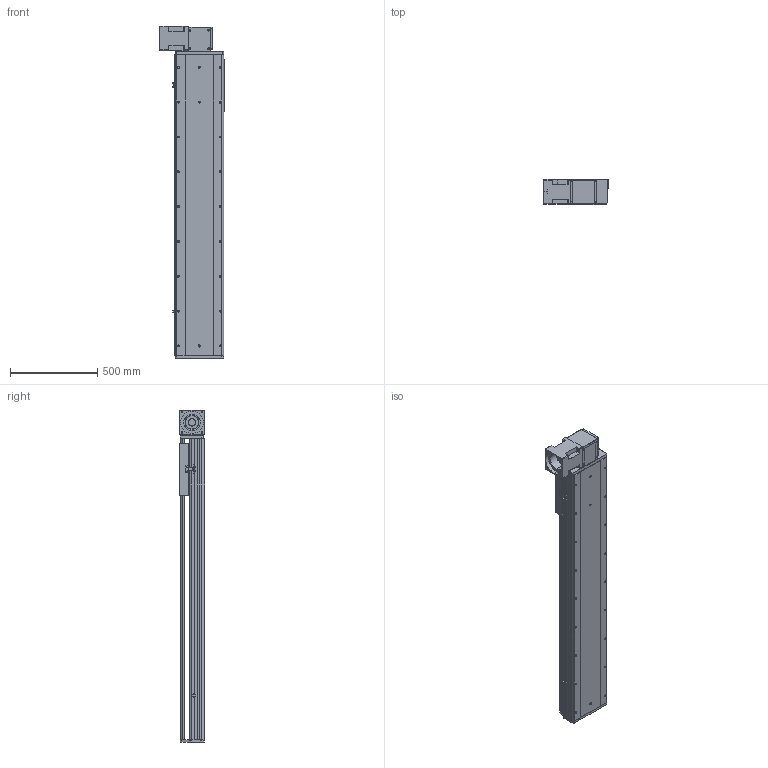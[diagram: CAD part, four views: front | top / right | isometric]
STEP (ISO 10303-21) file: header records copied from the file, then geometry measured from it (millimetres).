
FILE_DESCRIPTION (( 'STEP AP214' ), '1' );
FILE_NAME ('RTB28R-XX-1300-BR-M100-XX-C4.STEP', '2025-12-22T01:12:18', ( '' ), ( '' ), 'SwSTEP 2.0', 'SolidWorks 2018', '' );
FILE_SCHEMA (( 'AUTOMOTIVE_DESIGN' ));
Length unit declared in the file: millimetre
Products named in the file (4): RTB28S-GY-011^RTB28R-XX-XX-BR-M100-XX-C4; RTB28S-GY-008^RTB28R-XX-XX-BR-M100-XX-C4; RTB28S-GY-004^RTB28R-XX-XX-BR-M100-XX-C4; RTB28R-XX-1300-BR-M100-XX-C4
Assembly tree (3 placements, depth 2):
  RTB28R-XX-1300-BR-M100-XX-C4
    RTB28S-GY-011^RTB28R-XX-XX-BR-M100-XX-C4
    RTB28S-GY-004^RTB28R-XX-XX-BR-M100-XX-C4
    RTB28S-GY-008^RTB28R-XX-XX-BR-M100-XX-C4
Bounding box: 370 x 145 x 1907 mm (x, y, z)
Volume: 34344284.9 mm3; surface area: 3286455.6 mm2
Topology: 3 solids, 4 shells, 998 faces, 2640 edges, 1696 vertices
Faces by surface type: plane 458, cylinder 369, bspline 87, cone 80, torus 4
Entity records: 42688 total; most frequent: CARTESIAN_POINT 11395, ORIENTED_EDGE 5216, DIRECTION 5064, EDGE_CURVE 2608, AXIS2_PLACEMENT_3D 1741, VERTEX_POINT 1696, VECTOR 1582, LINE 1582
